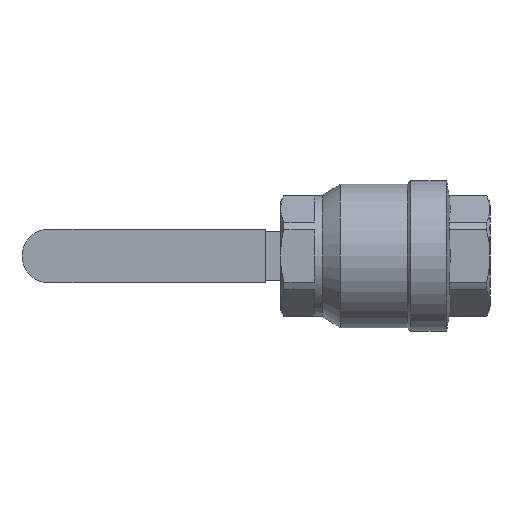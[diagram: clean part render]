
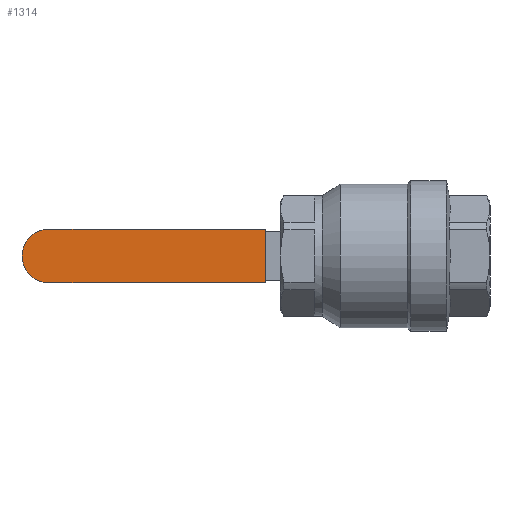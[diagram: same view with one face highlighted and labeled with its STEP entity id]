
A CAD part, front view. The second image highlights one B-rep face of the part: STEP entity #1314.
In plain terms, the highlighted planar face has unit normal (0, -1, 0).
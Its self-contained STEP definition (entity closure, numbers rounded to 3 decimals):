
#78 = VERTEX_POINT ( 'NONE', #2983 ) ;
#198 = LINE ( 'NONE', #3445, #1679 ) ;
#231 = DIRECTION ( 'NONE',  ( 0., 1., 0. ) ) ;
#293 = AXIS2_PLACEMENT_3D ( 'NONE', #1966, #231, #2309 ) ;
#494 = VECTOR ( 'NONE', #1755, 1000. ) ;
#585 = LINE ( 'NONE', #3561, #494 ) ;
#650 = EDGE_CURVE ( 'NONE', #2966, #78, #585, .T. ) ;
#1024 = CARTESIAN_POINT ( 'NONE',  ( -60., 88.5, 13.5 ) ) ;
#1302 = CIRCLE ( 'NONE', #2981, 13.5 ) ;
#1313 = EDGE_CURVE ( 'NONE', #3309, #2966, #1302, .T. ) ;
#1314 = ADVANCED_FACE ( 'NONE', ( #1406 ), #1405, .F. ) ;
#1356 = LINE ( 'NONE', #1024, #2039 ) ;
#1405 = PLANE ( 'NONE',  #293 ) ;
#1406 = FACE_OUTER_BOUND ( 'NONE', #1554, .T. ) ;
#1554 = EDGE_LOOP ( 'NONE', ( #1936, #2126, #2801, #3663 ) ) ;
#1666 = VERTEX_POINT ( 'NONE', #2336 ) ;
#1679 = VECTOR ( 'NONE', #2537, 1000. ) ;
#1697 = CARTESIAN_POINT ( 'NONE',  ( -168.5, 88.5, 0. ) ) ;
#1755 = DIRECTION ( 'NONE',  ( 1., 0., 0. ) ) ;
#1936 = ORIENTED_EDGE ( 'NONE', *, *, #2194, .F. ) ;
#1966 = CARTESIAN_POINT ( 'NONE',  ( -182., 88.5, 13.5 ) ) ;
#1986 = DIRECTION ( 'NONE',  ( 0., 0., 1. ) ) ;
#2039 = VECTOR ( 'NONE', #2204, 1000. ) ;
#2126 = ORIENTED_EDGE ( 'NONE', *, *, #1313, .T. ) ;
#2194 = EDGE_CURVE ( 'NONE', #3309, #1666, #198, .T. ) ;
#2204 = DIRECTION ( 'NONE',  ( 0., 0., -1. ) ) ;
#2309 = DIRECTION ( 'NONE',  ( 0., 0., 1. ) ) ;
#2336 = CARTESIAN_POINT ( 'NONE',  ( -60., 88.5, 13.5 ) ) ;
#2537 = DIRECTION ( 'NONE',  ( 1., 0., 0. ) ) ;
#2801 = ORIENTED_EDGE ( 'NONE', *, *, #650, .T. ) ;
#2840 = CARTESIAN_POINT ( 'NONE',  ( -168.5, 88.5, -13.5 ) ) ;
#2894 = EDGE_CURVE ( 'NONE', #1666, #78, #1356, .T. ) ;
#2966 = VERTEX_POINT ( 'NONE', #2840 ) ;
#2981 = AXIS2_PLACEMENT_3D ( 'NONE', #1697, #3798, #1986 ) ;
#2983 = CARTESIAN_POINT ( 'NONE',  ( -60., 88.5, -13.5 ) ) ;
#3309 = VERTEX_POINT ( 'NONE', #3759 ) ;
#3445 = CARTESIAN_POINT ( 'NONE',  ( -182., 88.5, 13.5 ) ) ;
#3561 = CARTESIAN_POINT ( 'NONE',  ( -182., 88.5, -13.5 ) ) ;
#3663 = ORIENTED_EDGE ( 'NONE', *, *, #2894, .F. ) ;
#3759 = CARTESIAN_POINT ( 'NONE',  ( -168.5, 88.5, 13.5 ) ) ;
#3798 = DIRECTION ( 'NONE',  ( 0., -1., 0. ) ) ;
